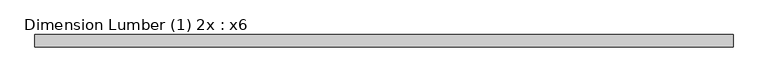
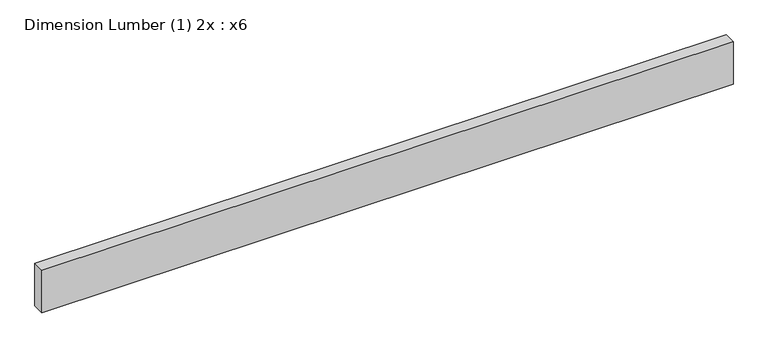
"""IFC4 building model written with IfcOpenShell, lengths in millimetres: beam geometry, Dimension Lumber (1) 2x : x6."""

import ifcopenshell
import ifcopenshell.guid

model = None  # the IFC model being written
_history = None  # IfcOwnerHistory: only IFC2X3 demands one
_inside = {}  # id of a spatial element -> (the spatial element, [elements in it])
_under = {}  # id of a project, library or spatial element -> (it, [spatial elements below it])
_declared = {}  # id of a project -> (the project, [libraries it declares])
_typed = {}  # id of a type object -> (the type object, [elements of that type])
_made_of = {}  # id of a material, layer set ... -> (it, [elements and type objects made of it])


def new_model(schema):
    """Start an empty IFC model of exactly this schema.

    Asked for "IFC4X3", IfcOpenShell would pick the latest addendum, in which some entities
    have other attributes; the version numbers below select the first issue.
    IFC2X3 requires an IfcOwnerHistory on every rooted entity: one is made here for all.
    """
    global model, _history
    if schema == "IFC4X3":
        model = ifcopenshell.file(schema_version=(4, 3, 0, 0))
    else:
        model = ifcopenshell.file(schema=schema)
    _inside.clear()
    _under.clear()
    _declared.clear()
    _typed.clear()
    _made_of.clear()
    _history = None
    if model.schema == "IFC2X3":
        org = make("IfcOrganization", Name="unknown")
        user = make(
            "IfcPersonAndOrganization",
            ThePerson=make("IfcPerson", FamilyName="unknown"),
            TheOrganization=org,
        )
        app = make(
            "IfcApplication",
            ApplicationDeveloper=org,
            Version="unknown",
            ApplicationFullName="unknown",
            ApplicationIdentifier="unknown",
        )
        _history = make(
            "IfcOwnerHistory",
            OwningUser=user,
            OwningApplication=app,
            ChangeAction="ADDED",
            CreationDate=0,
        )
    return model


def make(cls, **values):
    """One entity of the class cls with the attributes given. An attribute that is None is left unset."""
    return model.create_entity(
        cls, **{name: value for name, value in values.items() if value is not None}
    )


def rooted(cls, **values):
    """An entity with a GlobalId (a new one), such as an element, a storey or a relation."""
    return make(cls, GlobalId=ifcopenshell.guid.new(), OwnerHistory=_history, **values)


def si_unit(unit_type, name, prefix=None):
    """IfcSIUnit, for example si_unit("LENGTHUNIT", "METRE", prefix="MILLI")."""
    return make("IfcSIUnit", UnitType=unit_type, Prefix=prefix, Name=name)


def assignment(units):
    """IfcUnitAssignment: the units of a project."""
    return None if units is None else make("IfcUnitAssignment", Units=units)


def point(xyz):
    """IfcCartesianPoint."""
    return None if xyz is None else make("IfcCartesianPoint", Coordinates=xyz)


def direction(xyz):
    """IfcDirection."""
    return None if xyz is None else make("IfcDirection", DirectionRatios=xyz)


def frame(location, z_axis=None, x_axis=None):
    """IfcAxis2Placement3D, a coordinate frame: its origin and axes. An axis left out is left unset."""
    return make(
        "IfcAxis2Placement3D",
        Location=point(location),
        Axis=direction(z_axis),
        RefDirection=direction(x_axis),
    )


def origin():
    """The frame at (0, 0, 0) with its axes left unset."""
    return frame((0.0, 0.0, 0.0))


def place(relative_to, where):
    """IfcLocalPlacement: puts the frame where relative to a parent placement (None: the world)."""
    return make(
        "IfcLocalPlacement", PlacementRelTo=relative_to, RelativePlacement=where
    )


def context(
    kind, dimensions, precision=None, world=None, true_north=None, identifier=None
):
    """IfcGeometricRepresentationContext, for example the 3D "Model" context."""
    return make(
        "IfcGeometricRepresentationContext",
        ContextIdentifier=identifier,
        ContextType=kind,
        CoordinateSpaceDimension=dimensions,
        Precision=precision,
        WorldCoordinateSystem=world,
        TrueNorth=true_north,
    )


def project(units=None, contexts=None):
    """IfcProject with its units and contexts."""
    return rooted(
        "IfcProject",
        Name="project",
        RepresentationContexts=contexts,
        UnitsInContext=assignment(units),
    )


def spatial(cls, under=None, at=None, **own):
    """A site, building, storey or space (cls), placed at a placement, below another one or the project."""
    s = rooted(cls, ObjectPlacement=at, **own)
    if under is not None:
        _under.setdefault(under.id(), (under, []))[1].append(s)
    return s


def polyline(points):
    """IfcPolyline through the points."""
    return make("IfcPolyline", Points=[point(p) for p in points])


def outline(outer, holes=None, kind="AREA"):
    """IfcArbitraryClosedProfileDef: a profile drawn as a closed curve; with holes, ...WithVoids."""
    if holes is None:
        return make("IfcArbitraryClosedProfileDef", ProfileType=kind, OuterCurve=outer)
    return make(
        "IfcArbitraryProfileDefWithVoids",
        ProfileType=kind,
        OuterCurve=outer,
        InnerCurves=holes,
    )


def extrude(swept, where, along, depth):
    """IfcExtrudedAreaSolid: the profile swept, set in the frame where, extruded along a direction by depth."""
    return make(
        "IfcExtrudedAreaSolid",
        SweptArea=swept,
        Position=where,
        ExtrudedDirection=direction(along),
        Depth=depth,
    )


def shape(context_of_items, identifier, shape_type, items):
    """IfcShapeRepresentation: the items that make up one representation, for example the "Body"."""
    return make(
        "IfcShapeRepresentation",
        ContextOfItems=context_of_items,
        RepresentationIdentifier=identifier,
        RepresentationType=shape_type,
        Items=items,
    )


def source(mapping_origin, context_of_items, identifier, shape_type, items):
    """IfcRepresentationMap: a shape defined once, which mapped items show again and again."""
    return make(
        "IfcRepresentationMap",
        MappingOrigin=mapping_origin,
        MappedRepresentation=shape(context_of_items, identifier, shape_type, items),
    )


def transform(
    local_origin,
    x_axis=None,
    y_axis=None,
    z_axis=None,
    scale=None,
    scale2=None,
    scale3=None,
    uniform=True,
):
    """IfcCartesianTransformationOperator3D, or its non-uniform kind. x_axis, y_axis, z_axis: its Axis1, 2, 3."""
    if uniform:
        return make(
            "IfcCartesianTransformationOperator3D",
            Axis1=direction(x_axis),
            Axis2=direction(y_axis),
            LocalOrigin=point(local_origin),
            Scale=scale,
            Axis3=direction(z_axis),
        )
    return make(
        "IfcCartesianTransformationOperator3DnonUniform",
        Axis1=direction(x_axis),
        Axis2=direction(y_axis),
        LocalOrigin=point(local_origin),
        Scale=scale,
        Axis3=direction(z_axis),
        Scale2=scale2,
        Scale3=scale3,
    )


def mapped(mapping_source, mapping_target):
    """IfcMappedItem: shows the shape of a source again, moved by a transform."""
    return make(
        "IfcMappedItem", MappingSource=mapping_source, MappingTarget=mapping_target
    )


def made_of(thing, what):
    """Note that an element or type object is made of a material, layer set ...; save() writes the relation."""
    if what is not None:
        _made_of.setdefault(what.id(), (what, []))[1].append(thing)
    return thing


def element(
    cls,
    number,
    at=None,
    inside=None,
    cuts=None,
    type_object=None,
    material=None,
    context=None,
    identifier="Body",
    shape_type=None,
    held_by="IfcProductDefinitionShape",
    body=None,
    shapes=None,
    **own,
):
    """One element of the class cls, such as IfcWall. Its Tag is "e" and its number.

    at: its placement. inside: the storey or other place that contains it. cuts: it is an
    opening in that element (IfcRelVoidsElement). A single representation is given by context,
    identifier, shape_type and body (its items); several are given by shapes. held_by: the class
    of the entity that holds the representations. save() writes the other relations.
    """
    e = rooted(cls, Tag="e%d" % number, ObjectPlacement=at, **own)
    if body is not None:
        shapes = [shape(context, identifier, shape_type, body)]
    if shapes is not None:
        e.Representation = make(held_by, Representations=shapes)
    if inside is not None:
        _inside.setdefault(inside.id(), (inside, []))[1].append(e)
    if cuts is not None:
        rooted(
            "IfcRelVoidsElement", RelatingBuildingElement=cuts, RelatedOpeningElement=e
        )
    if type_object is not None:
        _typed.setdefault(type_object.id(), (type_object, []))[1].append(e)
    return made_of(e, material)


def aggregate(whole, parts):
    """IfcRelAggregates: a whole, such as a stair, and the parts it consists of."""
    return rooted("IfcRelAggregates", RelatingObject=whole, RelatedObjects=parts)


def save(model, path):
    """Write the relations noted so far, then the file.

    IfcRelAggregates (storeys below a building ...), IfcRelContainedInSpatialStructure (elements
    in a storey), IfcRelDefinesByType, IfcRelAssociatesMaterial and IfcRelDeclares: one each for
    every whole, place, type object, material and project.
    """
    for whole, parts in _under.values():
        aggregate(whole, parts)
    for where, things in _inside.values():
        rooted(
            "IfcRelContainedInSpatialStructure",
            RelatedElements=things,
            RelatingStructure=where,
        )
    for kind, things in _typed.values():
        rooted("IfcRelDefinesByType", RelatedObjects=things, RelatingType=kind)
    for what, things in _made_of.values():
        rooted("IfcRelAssociatesMaterial", RelatedObjects=things, RelatingMaterial=what)
    for by, libraries in _declared.values():
        rooted("IfcRelDeclares", RelatingContext=by, RelatedDefinitions=libraries)
    model.write(path)


def dimension_lumber_1_2x_x6_97439537(model_context):
    return source(origin(), model_context, "Body", "SweptSolid", [
        extrude(outline(polyline([(1076.8076, 19.05), (1076.8076, -19.05), (-1076.8076, -19.05), (-1076.8076, 19.05), (1076.8076, 19.05)])), frame((0.0, 0.0, -69.85), z_axis=(0.0, 0.0, 1.0), x_axis=(1.0, 0.0, 0.0)), (0.0, 0.0, 1.0), 139.7),
    ])


if __name__ == "__main__":
    model = new_model("IFC4")
    model_context = context("Model", 3, world=origin())
    ifc_project = project(units=[si_unit("LENGTHUNIT", "METRE", prefix="MILLI")], contexts=[model_context])
    site = spatial("IfcSite", under=ifc_project)
    building = spatial("IfcBuilding", under=site)
    placement = place(None, origin())
    dimension_lumber_1_2x_x6_shape = dimension_lumber_1_2x_x6_97439537(model_context)
    element("IfcBeam", 1, ObjectType="Dimension Lumber (1) 2x : x6", at=placement, inside=building, context=model_context, shape_type="MappedRepresentation", body=[
        mapped(dimension_lumber_1_2x_x6_shape, transform((0.0, 0.0, 0.0), x_axis=(1.0, 0.0, 0.0), y_axis=(0.0, 1.0, 0.0), z_axis=(0.0, 0.0, 1.0))),
    ])
    save(model, "model.ifc")
